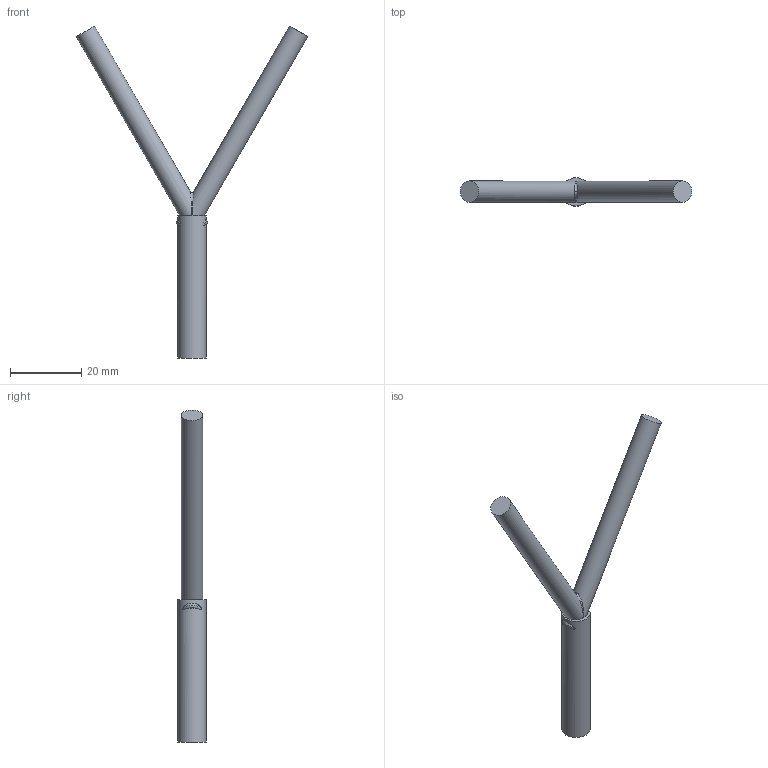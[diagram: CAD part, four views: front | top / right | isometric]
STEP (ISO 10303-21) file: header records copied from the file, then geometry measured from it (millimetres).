
FILE_DESCRIPTION(('Open CASCADE Model'),'2;1');
FILE_NAME('Open CASCADE Shape Model','2026-10-29T17:59:18',('Author'),( 'Open CASCADE'),'Open CASCADE STEP processor 7.9','Open CASCADE 7.9' ,'Unknown');
FILE_SCHEMA(('AUTOMOTIVE_DESIGN { 1 0 10303 214 1 1 1 1 }'));
Length unit declared in the file: millimetre
Products named in the file (1): Open CASCADE STEP translator 7.9 1
Bounding box: 65.2 x 8 x 93.46 mm (x, y, z)
Volume: 5323.7 mm3; surface area: 3309.3 mm2
Topology: 1 solids, 1 shells, 15 faces, 32 edges, 19 vertices
Faces by surface type: plane 6, cylinder 5, torus 2, bspline 2
Full cylindrical faces by diameter (mm): 6 x2, 8 x1
Entity records: 2235 total; most frequent: CARTESIAN_POINT 1658, DIRECTION 93, ORIENTED_EDGE 60, PCURVE 60, DEFINITIONAL_REPRESENTATION 60, B_SPLINE_CURVE_WITH_KNOTS 33, EDGE_CURVE 30, AXIS2_PLACEMENT_3D 28
